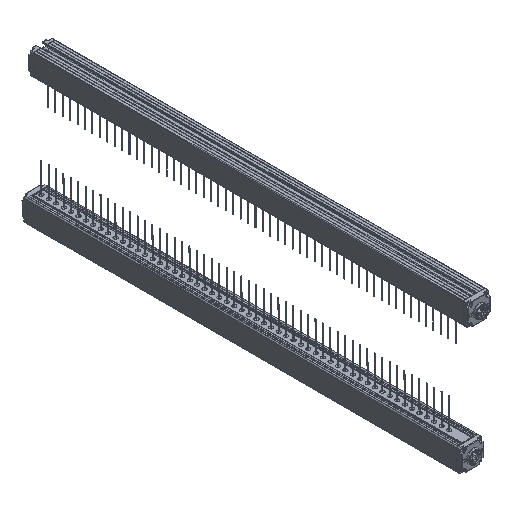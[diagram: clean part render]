
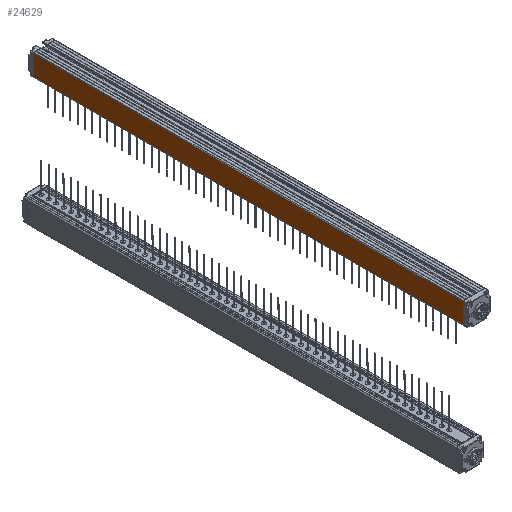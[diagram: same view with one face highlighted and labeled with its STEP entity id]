
A CAD part, isometric view. The second image highlights one B-rep face of the part: STEP entity #24629.
In plain terms, the highlighted planar face has unit normal (-1, 0, 0).
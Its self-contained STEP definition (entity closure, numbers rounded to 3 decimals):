
#1209 = LINE ( 'NONE', #20603, #22130 ) ;
#3250 = CARTESIAN_POINT ( 'NONE',  ( -15., 0., -16.9 ) ) ;
#8225 = ORIENTED_EDGE ( 'NONE', *, *, #21650, .T. ) ;
#9893 = VERTEX_POINT ( 'NONE', #22087 ) ;
#11052 = EDGE_LOOP ( 'NONE', ( #16742, #8225, #16930, #25857 ) ) ;
#11439 = VECTOR ( 'NONE', #11479, 1000. ) ;
#11479 = DIRECTION ( 'NONE',  ( 0., -1., 0. ) ) ;
#11703 = DIRECTION ( 'NONE',  ( 0., 0., 1. ) ) ;
#12225 = CARTESIAN_POINT ( 'NONE',  ( -15., 0., -16.693 ) ) ;
#12897 = VECTOR ( 'NONE', #11703, 1000. ) ;
#13279 = CARTESIAN_POINT ( 'NONE',  ( -15., 580., -16.693 ) ) ;
#13426 = LINE ( 'NONE', #13279, #11439 ) ;
#14353 = CARTESIAN_POINT ( 'NONE',  ( -15., 580., 10.9 ) ) ;
#15225 = EDGE_CURVE ( 'NONE', #9893, #24097, #1209, .T. ) ;
#16049 = EDGE_CURVE ( 'NONE', #25484, #26034, #22067, .T. ) ;
#16466 = FACE_OUTER_BOUND ( 'NONE', #11052, .T. ) ;
#16734 = PLANE ( 'NONE',  #23870 ) ;
#16742 = ORIENTED_EDGE ( 'NONE', *, *, #15225, .F. ) ;
#16777 = CARTESIAN_POINT ( 'NONE',  ( -15., 0., 10.9 ) ) ;
#16873 = EDGE_CURVE ( 'NONE', #24097, #26034, #24725, .T. ) ;
#16930 = ORIENTED_EDGE ( 'NONE', *, *, #16049, .T. ) ;
#18173 = VECTOR ( 'NONE', #22379, 1000. ) ;
#20601 = CARTESIAN_POINT ( 'NONE',  ( -15., 580., -16.9 ) ) ;
#20603 = CARTESIAN_POINT ( 'NONE',  ( -15., 580., -16.9 ) ) ;
#21650 = EDGE_CURVE ( 'NONE', #9893, #25484, #13426, .T. ) ;
#22067 = LINE ( 'NONE', #3250, #12897 ) ;
#22087 = CARTESIAN_POINT ( 'NONE',  ( -15., 580., -16.693 ) ) ;
#22130 = VECTOR ( 'NONE', #24495, 1000. ) ;
#22379 = DIRECTION ( 'NONE',  ( 0., -1., 0. ) ) ;
#23870 = AXIS2_PLACEMENT_3D ( 'NONE', #20601, #26956, #24904 ) ;
#24097 = VERTEX_POINT ( 'NONE', #25938 ) ;
#24495 = DIRECTION ( 'NONE',  ( 0., 0., 1. ) ) ;
#24629 = ADVANCED_FACE ( 'NONE', ( #16466 ), #16734, .F. ) ;
#24725 = LINE ( 'NONE', #14353, #18173 ) ;
#24904 = DIRECTION ( 'NONE',  ( 0., 0., -1. ) ) ;
#25484 = VERTEX_POINT ( 'NONE', #12225 ) ;
#25857 = ORIENTED_EDGE ( 'NONE', *, *, #16873, .F. ) ;
#25938 = CARTESIAN_POINT ( 'NONE',  ( -15., 580., 10.9 ) ) ;
#26034 = VERTEX_POINT ( 'NONE', #16777 ) ;
#26956 = DIRECTION ( 'NONE',  ( 1., 0., 0. ) ) ;
